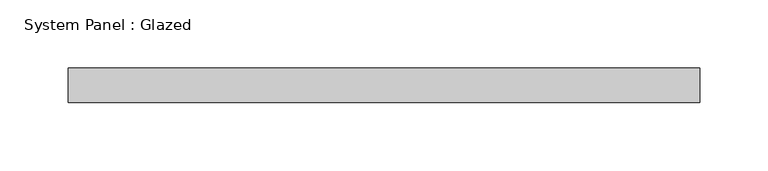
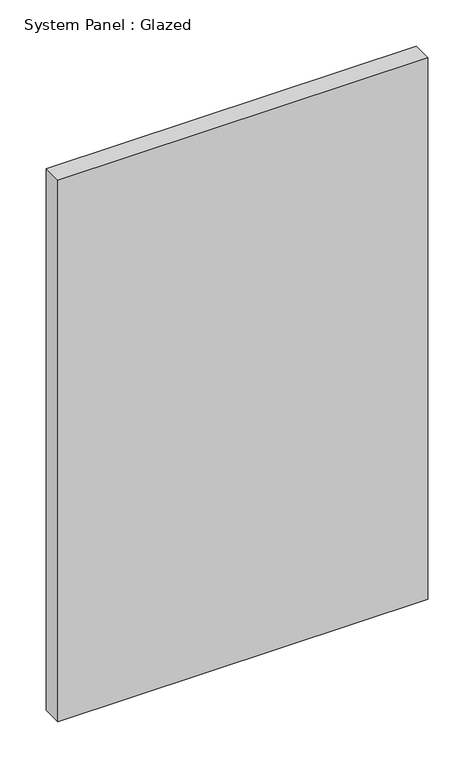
"""IFC4 building model written with IfcOpenShell, lengths in millimetres: plate geometry, System Panel : Glazed."""

from ifc_helpers import new_model, si_unit, origin, origin_with_axes, place, context, project, spatial, polyline, outline, extrude, source, transform, mapped, element, save


def system_panel_glazed_82fe0f80(model_context):
    return source(origin(), model_context, "Body", "SweptSolid", [
        extrude(outline(polyline([(231.775, 19.05), (-231.775, 19.05), (-231.775, 44.45), (231.775, 44.45), (231.775, 19.05)])), origin_with_axes(), (0.0, 0.0, 1.0), 717.55),
    ])


if __name__ == "__main__":
    model = new_model("IFC4")
    model_context = context("Model", 3, world=origin())
    ifc_project = project(units=[si_unit("LENGTHUNIT", "METRE", prefix="MILLI")], contexts=[model_context])
    site = spatial("IfcSite", under=ifc_project)
    building = spatial("IfcBuilding", under=site)
    placement = place(None, origin())
    system_panel_glazed_shape = system_panel_glazed_82fe0f80(model_context)
    element("IfcPlate", 1, ObjectType="System Panel : Glazed", at=placement, inside=building, context=model_context, shape_type="MappedRepresentation", body=[
        mapped(system_panel_glazed_shape, transform((0.0, 0.0, 0.0), x_axis=(1.0, 0.0, 0.0), y_axis=(0.0, 1.0, 0.0), z_axis=(0.0, 0.0, 1.0))),
    ])
    save(model, "model.ifc")
